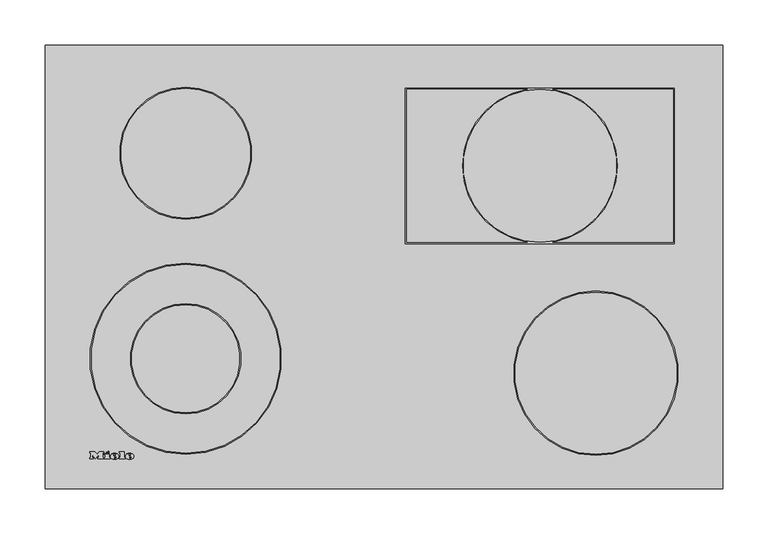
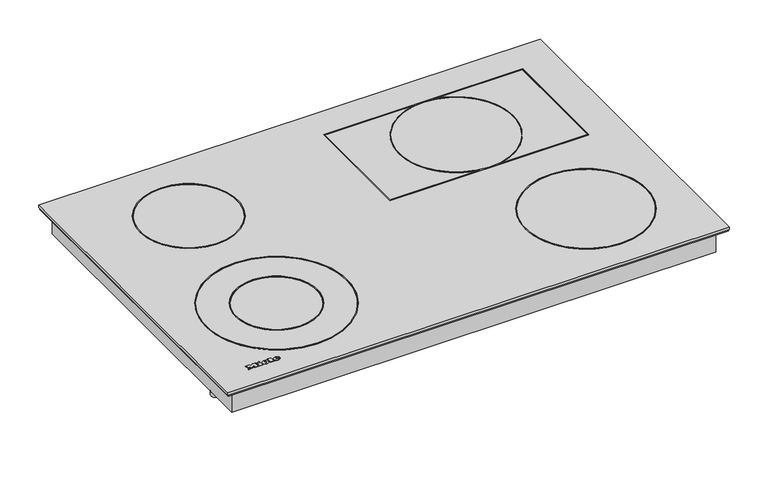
"""IFC4 building model written with IfcOpenShell, lengths in millimetres: proxy geometry, 10941480_RU_KM6542FL : 26654270_RU_10941480_KM6542FL."""

import ifcopenshell
import ifcopenshell.guid

model = None  # the IFC model being written
_history = None  # IfcOwnerHistory: only IFC2X3 demands one
_inside = {}  # id of a spatial element -> (the spatial element, [elements in it])
_under = {}  # id of a project, library or spatial element -> (it, [spatial elements below it])
_declared = {}  # id of a project -> (the project, [libraries it declares])
_typed = {}  # id of a type object -> (the type object, [elements of that type])
_made_of = {}  # id of a material, layer set ... -> (it, [elements and type objects made of it])


def new_model(schema):
    """Start an empty IFC model of exactly this schema.

    Asked for "IFC4X3", IfcOpenShell would pick the latest addendum, in which some entities
    have other attributes; the version numbers below select the first issue.
    IFC2X3 requires an IfcOwnerHistory on every rooted entity: one is made here for all.
    """
    global model, _history
    if schema == "IFC4X3":
        model = ifcopenshell.file(schema_version=(4, 3, 0, 0))
    else:
        model = ifcopenshell.file(schema=schema)
    _inside.clear()
    _under.clear()
    _declared.clear()
    _typed.clear()
    _made_of.clear()
    _history = None
    if model.schema == "IFC2X3":
        org = make("IfcOrganization", Name="unknown")
        user = make(
            "IfcPersonAndOrganization",
            ThePerson=make("IfcPerson", FamilyName="unknown"),
            TheOrganization=org,
        )
        app = make(
            "IfcApplication",
            ApplicationDeveloper=org,
            Version="unknown",
            ApplicationFullName="unknown",
            ApplicationIdentifier="unknown",
        )
        _history = make(
            "IfcOwnerHistory",
            OwningUser=user,
            OwningApplication=app,
            ChangeAction="ADDED",
            CreationDate=0,
        )
    return model


def make(cls, **values):
    """One entity of the class cls with the attributes given. An attribute that is None is left unset."""
    return model.create_entity(
        cls, **{name: value for name, value in values.items() if value is not None}
    )


def rooted(cls, **values):
    """An entity with a GlobalId (a new one), such as an element, a storey or a relation."""
    return make(cls, GlobalId=ifcopenshell.guid.new(), OwnerHistory=_history, **values)


def si_unit(unit_type, name, prefix=None):
    """IfcSIUnit, for example si_unit("LENGTHUNIT", "METRE", prefix="MILLI")."""
    return make("IfcSIUnit", UnitType=unit_type, Prefix=prefix, Name=name)


def assignment(units):
    """IfcUnitAssignment: the units of a project."""
    return None if units is None else make("IfcUnitAssignment", Units=units)


def point(xyz):
    """IfcCartesianPoint."""
    return None if xyz is None else make("IfcCartesianPoint", Coordinates=xyz)


def direction(xyz):
    """IfcDirection."""
    return None if xyz is None else make("IfcDirection", DirectionRatios=xyz)


def frame(location, z_axis=None, x_axis=None):
    """IfcAxis2Placement3D, a coordinate frame: its origin and axes. An axis left out is left unset."""
    return make(
        "IfcAxis2Placement3D",
        Location=point(location),
        Axis=direction(z_axis),
        RefDirection=direction(x_axis),
    )


def frame_2d(location, x_axis=None):
    """IfcAxis2Placement2D, a coordinate frame in the plane: its origin and x axis."""
    return make(
        "IfcAxis2Placement2D", Location=point(location), RefDirection=direction(x_axis)
    )


def origin():
    """The frame at (0, 0, 0) with its axes left unset."""
    return frame((0.0, 0.0, 0.0))


def origin_with_axes():
    """The frame at (0, 0, 0) with the z axis (0, 0, 1) and the x axis (1, 0, 0) written out."""
    return frame((0.0, 0.0, 0.0), z_axis=(0.0, 0.0, 1.0), x_axis=(1.0, 0.0, 0.0))


def place(relative_to, where):
    """IfcLocalPlacement: puts the frame where relative to a parent placement (None: the world)."""
    return make(
        "IfcLocalPlacement", PlacementRelTo=relative_to, RelativePlacement=where
    )


def context(
    kind, dimensions, precision=None, world=None, true_north=None, identifier=None
):
    """IfcGeometricRepresentationContext, for example the 3D "Model" context."""
    return make(
        "IfcGeometricRepresentationContext",
        ContextIdentifier=identifier,
        ContextType=kind,
        CoordinateSpaceDimension=dimensions,
        Precision=precision,
        WorldCoordinateSystem=world,
        TrueNorth=true_north,
    )


def project(units=None, contexts=None):
    """IfcProject with its units and contexts."""
    return rooted(
        "IfcProject",
        Name="project",
        RepresentationContexts=contexts,
        UnitsInContext=assignment(units),
    )


def spatial(cls, under=None, at=None, **own):
    """A site, building, storey or space (cls), placed at a placement, below another one or the project."""
    s = rooted(cls, ObjectPlacement=at, **own)
    if under is not None:
        _under.setdefault(under.id(), (under, []))[1].append(s)
    return s


def polyline(points):
    """IfcPolyline through the points."""
    return make("IfcPolyline", Points=[point(p) for p in points])


def circle_curve(where, radius):
    """IfcCircle in the frame where."""
    return make("IfcCircle", Position=where, Radius=radius)


def ellipse_curve(where, semi_axis1, semi_axis2):
    """IfcEllipse in the frame where."""
    return make(
        "IfcEllipse", Position=where, SemiAxis1=semi_axis1, SemiAxis2=semi_axis2
    )


def trimmed(basis, trim1, trim2, sense, master):
    """IfcTrimmedCurve: the piece of a basis curve between two trims."""
    return make(
        "IfcTrimmedCurve",
        BasisCurve=basis,
        Trim1=trim1,
        Trim2=trim2,
        SenseAgreement=sense,
        MasterRepresentation=master,
    )


def segment(curve, same_sense, transition):
    """IfcCompositeCurveSegment."""
    return make(
        "IfcCompositeCurveSegment",
        Transition=transition,
        SameSense=same_sense,
        ParentCurve=curve,
    )


def composite_curve(segments, self_intersect=None):
    """IfcCompositeCurve: segments joined end to end."""
    return make("IfcCompositeCurve", Segments=segments, SelfIntersect=self_intersect)


def outline(outer, holes=None, kind="AREA"):
    """IfcArbitraryClosedProfileDef: a profile drawn as a closed curve; with holes, ...WithVoids."""
    if holes is None:
        return make("IfcArbitraryClosedProfileDef", ProfileType=kind, OuterCurve=outer)
    return make(
        "IfcArbitraryProfileDefWithVoids",
        ProfileType=kind,
        OuterCurve=outer,
        InnerCurves=holes,
    )


def extrude(swept, where, along, depth):
    """IfcExtrudedAreaSolid: the profile swept, set in the frame where, extruded along a direction by depth."""
    return make(
        "IfcExtrudedAreaSolid",
        SweptArea=swept,
        Position=where,
        ExtrudedDirection=direction(along),
        Depth=depth,
    )


def shape(context_of_items, identifier, shape_type, items):
    """IfcShapeRepresentation: the items that make up one representation, for example the "Body"."""
    return make(
        "IfcShapeRepresentation",
        ContextOfItems=context_of_items,
        RepresentationIdentifier=identifier,
        RepresentationType=shape_type,
        Items=items,
    )


def source(mapping_origin, context_of_items, identifier, shape_type, items):
    """IfcRepresentationMap: a shape defined once, which mapped items show again and again."""
    return make(
        "IfcRepresentationMap",
        MappingOrigin=mapping_origin,
        MappedRepresentation=shape(context_of_items, identifier, shape_type, items),
    )


def transform(
    local_origin,
    x_axis=None,
    y_axis=None,
    z_axis=None,
    scale=None,
    scale2=None,
    scale3=None,
    uniform=True,
):
    """IfcCartesianTransformationOperator3D, or its non-uniform kind. x_axis, y_axis, z_axis: its Axis1, 2, 3."""
    if uniform:
        return make(
            "IfcCartesianTransformationOperator3D",
            Axis1=direction(x_axis),
            Axis2=direction(y_axis),
            LocalOrigin=point(local_origin),
            Scale=scale,
            Axis3=direction(z_axis),
        )
    return make(
        "IfcCartesianTransformationOperator3DnonUniform",
        Axis1=direction(x_axis),
        Axis2=direction(y_axis),
        LocalOrigin=point(local_origin),
        Scale=scale,
        Axis3=direction(z_axis),
        Scale2=scale2,
        Scale3=scale3,
    )


def mapped(mapping_source, mapping_target):
    """IfcMappedItem: shows the shape of a source again, moved by a transform."""
    return make(
        "IfcMappedItem", MappingSource=mapping_source, MappingTarget=mapping_target
    )


def made_of(thing, what):
    """Note that an element or type object is made of a material, layer set ...; save() writes the relation."""
    if what is not None:
        _made_of.setdefault(what.id(), (what, []))[1].append(thing)
    return thing


def element(
    cls,
    number,
    at=None,
    inside=None,
    cuts=None,
    type_object=None,
    material=None,
    context=None,
    identifier="Body",
    shape_type=None,
    held_by="IfcProductDefinitionShape",
    body=None,
    shapes=None,
    **own,
):
    """One element of the class cls, such as IfcWall. Its Tag is "e" and its number.

    at: its placement. inside: the storey or other place that contains it. cuts: it is an
    opening in that element (IfcRelVoidsElement). A single representation is given by context,
    identifier, shape_type and body (its items); several are given by shapes. held_by: the class
    of the entity that holds the representations. save() writes the other relations.
    """
    e = rooted(cls, Tag="e%d" % number, ObjectPlacement=at, **own)
    if body is not None:
        shapes = [shape(context, identifier, shape_type, body)]
    if shapes is not None:
        e.Representation = make(held_by, Representations=shapes)
    if inside is not None:
        _inside.setdefault(inside.id(), (inside, []))[1].append(e)
    if cuts is not None:
        rooted(
            "IfcRelVoidsElement", RelatingBuildingElement=cuts, RelatedOpeningElement=e
        )
    if type_object is not None:
        _typed.setdefault(type_object.id(), (type_object, []))[1].append(e)
    return made_of(e, material)


def aggregate(whole, parts):
    """IfcRelAggregates: a whole, such as a stair, and the parts it consists of."""
    return rooted("IfcRelAggregates", RelatingObject=whole, RelatedObjects=parts)


def save(model, path):
    """Write the relations noted so far, then the file.

    IfcRelAggregates (storeys below a building ...), IfcRelContainedInSpatialStructure (elements
    in a storey), IfcRelDefinesByType, IfcRelAssociatesMaterial and IfcRelDeclares: one each for
    every whole, place, type object, material and project.
    """
    for whole, parts in _under.values():
        aggregate(whole, parts)
    for where, things in _inside.values():
        rooted(
            "IfcRelContainedInSpatialStructure",
            RelatedElements=things,
            RelatingStructure=where,
        )
    for kind, things in _typed.values():
        rooted("IfcRelDefinesByType", RelatedObjects=things, RelatingType=kind)
    for what, things in _made_of.values():
        rooted("IfcRelAssociatesMaterial", RelatedObjects=things, RelatingMaterial=what)
    for by, libraries in _declared.values():
        rooted("IfcRelDeclares", RelatingContext=by, RelatedDefinitions=libraries)
    model.write(path)


def plane_surface(at):
    """IfcPlane: the flat surface through the origin of the frame at, square to its z axis."""
    return make("IfcPlane", Position=at)


def cylinder_surface(at, radius):
    """IfcCylindricalSurface: all points at the distance radius from the z axis of the frame at."""
    return make("IfcCylindricalSurface", Position=at, Radius=radius)


def revolved_surface(curve, axis_point, axis_direction):
    """IfcSurfaceOfRevolution: the curve turned about the line through axis_point along axis_direction."""
    return make(
        "IfcSurfaceOfRevolution",
        SweptCurve=make("IfcArbitraryOpenProfileDef", ProfileType="CURVE", Curve=curve),
        AxisPosition=make("IfcAxis1Placement", Location=point(axis_point), Axis=direction(axis_direction)),
    )


def extruded_surface(curve, direction_of_extrusion, depth):
    """IfcSurfaceOfLinearExtrusion: the curve pushed along a direction by depth."""
    return make(
        "IfcSurfaceOfLinearExtrusion",
        SweptCurve=make("IfcArbitraryOpenProfileDef", ProfileType="CURVE", Curve=curve),
        ExtrudedDirection=direction(direction_of_extrusion),
        Depth=depth,
    )


def advanced_brep(points, edges, surfaces, faces):
    """IfcAdvancedBrep: a solid bounded by faces that lie on surfaces and meet in shared edges.

    An edge is (start, end): straight between two places in points (the first is 0);
    or (start, end, curve); or (start, end, curve, False) where it runs against its curve.
    A face is (place in surfaces, loops), or (place, loops, False) where it looks against
    its surface's normal. A loop lists edges by number (the first is 1), with a minus sign
    where the edge is run from its end to its start. The first loop is the outer one.
    """
    corners = [point(p) for p in points]
    vertices = [make("IfcVertexPoint", VertexGeometry=c) for c in corners]
    made = []
    for start, end, *more in edges:
        made.append(
            make(
                "IfcEdgeCurve",
                EdgeStart=vertices[start],
                EdgeEnd=vertices[end],
                EdgeGeometry=more[0] if more else make("IfcPolyline", Points=[corners[start], corners[end]]),
                SameSense=more[1] if len(more) > 1 else True,
            )
        )
    hull = []
    for where, loops, *sense in faces:
        bounds = []
        for j, loop in enumerate(loops):
            ring = [make("IfcOrientedEdge", EdgeElement=made[abs(k) - 1], Orientation=k > 0) for k in loop]
            bounds.append(
                make(
                    "IfcFaceOuterBound" if j == 0 else "IfcFaceBound",
                    Bound=make("IfcEdgeLoop", EdgeList=ring),
                    Orientation=True,
                )
            )
        hull.append(make("IfcAdvancedFace", Bounds=bounds, FaceSurface=surfaces[where], SameSense=sense[0] if sense else True))
    return make("IfcAdvancedBrep", Outer=make("IfcClosedShell", CfsFaces=hull))


def specialty_equipment_642be2a8(model_context):
    return source(origin(), model_context, "Body", "SolidModel", [
        advanced_brep(
        [(-282.84, 34.6948833, 0.4802537), (-282.84, 35.5028828, 0.4811551), (-277.488, 35.5028828, 0.4811551), (-286.8, 35.5028828, 0.4811551), (-284.6, 32.7988845, 0.4781386), (-277.624, 34.6948833, 0.4802537), (-280.04, 34.6948833, 0.4802537), (-281.944, 33.7988838, 0.4792542), (-282.84, 36.5268821, 0.4822974), (-282.84, 37.3988816, 0.4832701), (-281.472, 37.3988816, 0.4832701), (-281.472, 36.5268821, 0.4822974), (-282.84, 34.6959988, -0.5197457), (-281.944, 33.7999994, -0.5207452), (-280.04, 34.6959988, -0.5197457), (-277.624, 34.6959988, -0.5197457), (-284.6, 32.8, -0.5218607), (-286.8, 35.5039983, -0.5188443), (-277.488, 35.5039983, -0.5188443), (-282.84, 35.5039983, -0.5188443), (-282.84, 36.5279977, -0.517702), (-281.472, 36.5279977, -0.517702), (-281.472, 37.3999971, -0.5167293), (-282.84, 37.3999971, -0.5167293)],
        [
            (0, 1),
            (1, 2),
            (2, 3, ellipse_curve(frame((-282.144, 35.5028828, 0.4811551), z_axis=(0.0, -0.0011155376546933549, 0.9999993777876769), x_axis=(-1.0, 0.0, 0.0)), 4.656, 3.848)),
            (3, 4, circle_curve(frame((-283.7039564, 35.7748826, 0.4814585), z_axis=(0.0, -0.0011155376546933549, 0.9999993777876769), x_axis=(0.0, -0.9999993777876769, -0.0011155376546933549)), 3.1079688)),
            (4, 5, circle_curve(frame((-282.2372064, 37.8868813, 0.4838145), z_axis=(0.0, -0.0011155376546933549, 0.9999993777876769), x_axis=(0.0, -0.9999993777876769, -0.0011155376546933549)), 5.6098607)),
            (5, 6),
            (6, 7, circle_curve(frame((-281.5529412, 35.4388828, 0.4810837), z_axis=(0.0, 0.0011155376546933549, -0.9999993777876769), x_axis=(0.0, -0.9999993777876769, -0.0011155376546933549)), 1.6859795)),
            (7, 0, circle_curve(frame((-281.944, 34.6948833, 0.4802537), z_axis=(0.0, 0.0011155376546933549, -0.9999993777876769), x_axis=(0.0, -0.9999993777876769, -0.0011155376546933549)), 0.896)),
            (8, 9),
            (9, 10, circle_curve(frame((-282.156, 37.3988816, 0.4832701), z_axis=(0.0, 0.0011155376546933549, -0.9999993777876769), x_axis=(0.0, -0.9999993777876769, -0.0011155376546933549)), 0.684)),
            (10, 11),
            (11, 8),
            (12, 13, circle_curve(frame((-281.944, 34.6959988, -0.5197457), z_axis=(0.0, -0.0011155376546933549, 0.9999993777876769), x_axis=(0.0, -0.9999993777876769, -0.0011155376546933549)), 0.896)),
            (13, 14, circle_curve(frame((-281.5529412, 35.4399984, -0.5189157), z_axis=(0.0, -0.0011155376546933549, 0.9999993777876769), x_axis=(0.0, -0.9999993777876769, -0.0011155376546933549)), 1.6859795)),
            (14, 15),
            (15, 16, circle_curve(frame((-282.2372064, 37.8879968, -0.5161849), z_axis=(0.0, 0.0011155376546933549, -0.9999993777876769), x_axis=(0.0, -0.9999993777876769, -0.0011155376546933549)), 5.6098607)),
            (16, 17, circle_curve(frame((-283.7039564, 35.7759981, -0.5185409), z_axis=(0.0, 0.0011155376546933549, -0.9999993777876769), x_axis=(0.0, -0.9999993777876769, -0.0011155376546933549)), 3.1079688)),
            (17, 18, ellipse_curve(frame((-282.144, 35.5039983, -0.5188443), z_axis=(0.0, 0.0011155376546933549, -0.9999993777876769), x_axis=(-1.0, 0.0, 0.0)), 4.656, 3.848)),
            (18, 19),
            (19, 12),
            (20, 21),
            (21, 22),
            (22, 23, circle_curve(frame((-282.156, 37.3999971, -0.5167293), z_axis=(0.0, -0.0011155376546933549, 0.9999993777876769), x_axis=(0.0, -0.9999993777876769, -0.0011155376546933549)), 0.684)),
            (23, 20),
            (0, 12),
            (19, 1),
            (18, 2),
            (5, 15),
            (14, 6),
            (17, 3),
            (13, 7),
            (16, 4),
            (8, 20),
            (23, 9),
            (22, 10),
            (21, 11),
        ],
        [
            plane_surface(frame((-282.84, 35.5028828, 0.4811551), z_axis=(0.0, -0.0011155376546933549, 0.9999993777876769), x_axis=(0.0, 0.9999993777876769, 0.0011155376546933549))),
            plane_surface(frame((-282.84, 35.5039983, -0.5188443), z_axis=(0.0, 0.0011155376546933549, -0.9999993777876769), x_axis=(0.0, -0.9999993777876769, -0.0011155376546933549))),
            plane_surface(frame((-282.84, 34.6948833, 0.4802537), z_axis=(1.0000000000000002, 0.0, 0.0), x_axis=(0.0, 0.001115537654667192, -0.999999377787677))),
            plane_surface(frame((-282.84, 35.5028828, 0.4811551), z_axis=(0.0, -0.999999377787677, -0.001115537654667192), x_axis=(0.0, 0.001115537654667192, -0.999999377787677))),
            plane_surface(frame((-277.624, 34.6948833, 0.4802537), z_axis=(0.0, 0.999999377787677, 0.001115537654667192), x_axis=(0.0, 0.001115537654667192, -0.999999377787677))),
            extruded_surface(trimmed(ellipse_curve(frame((-282.144, 35.5051139, -1.5188437), z_axis=(0.0, -0.0011155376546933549, 0.9999993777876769), x_axis=(-1.0, 0.0, 0.0)), 4.656, 3.848), [point((-277.488, 35.5051139, -1.5188437))], [point((-286.8, 35.5051139, -1.5188437))], True, "CARTESIAN"), (0.0, -0.001115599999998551, 0.9999993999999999), 1.0000000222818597),
            revolved_surface(polyline([(-281.5529412, 33.75401994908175, -0.5207965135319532), (-281.5529412, 33.75290441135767, 0.47920292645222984)]), (-281.5529412, 35.4399984, -0.5189157), (0.0, 0.0011155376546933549, -0.9999993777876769)),
            revolved_surface(polyline([(-281.944, 33.79999935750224, -0.5207452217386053), (-281.944, 33.79888381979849, 0.47925420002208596)]), (-281.944, 34.6959988, -0.5197457), (0.0, 0.0011155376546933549, -0.9999993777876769)),
            cylinder_surface(frame((-283.7039564, 35.7759981, -0.5185409), z_axis=(0.0, -0.0011155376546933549, 0.9999993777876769), x_axis=(0.0, -0.9999993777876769, -0.0011155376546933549)), 3.1079688),
            cylinder_surface(frame((-282.2372064, 37.8879968, -0.5161849), z_axis=(0.0, -0.0011155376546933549, 0.9999993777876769), x_axis=(0.0, -0.9999993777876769, -0.0011155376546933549)), 5.6098607),
            plane_surface(frame((-282.84, 36.5268821, 0.4822974), z_axis=(1.0000000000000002, 0.0, 0.0), x_axis=(0.0, 0.001115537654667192, -0.999999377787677))),
            revolved_surface(polyline([(-282.156, 36.71599752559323, -0.5174923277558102), (-282.156, 36.714881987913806, 0.48250707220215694)]), (-282.156, 37.3999971, -0.5167293), (0.0, 0.0011155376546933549, -0.9999993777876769)),
            plane_surface(frame((-281.472, 37.3988816, 0.4832701), z_axis=(-1.0000000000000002, 0.0, 0.0), x_axis=(0.0, 0.001115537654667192, -0.999999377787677))),
            plane_surface(frame((-281.472, 36.5268821, 0.4822974), z_axis=(0.0, 0.999999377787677, 0.001115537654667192), x_axis=(0.0, 0.001115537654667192, -0.999999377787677))),
        ],
        [
            (0, [[1, 2, 3, 4, 5, 6, 7, 8], [9, 10, 11, 12]]),
            (1, [[13, 14, 15, 16, 17, 18, 19, 20], [21, 22, 23, 24]]),
            (2, [[-1, 25, -20, 26]]),
            (3, [[-2, -26, -19, 27]]),
            (4, [[-6, 28, -15, 29]]),
            (5, [[-3, -27, -18, 30]]),
            (6, [[-7, -29, -14, 31]]),
            (7, [[-8, -31, -13, -25]]),
            (8, [[-4, -30, -17, 32]]),
            (9, [[-5, -32, -16, -28]]),
            (10, [[-9, 33, -24, 34]]),
            (11, [[-10, -34, -23, 35]]),
            (12, [[-11, -35, -22, 36]]),
            (13, [[-12, -36, -21, -33]]),
        ],
    ),
        advanced_brep(
        [(-299.536, 34.6948833, 0.4802537), (-299.536, 35.5028828, 0.4811551), (-294.184, 35.5028828, 0.4811551), (-303.496, 35.5028828, 0.4811551), (-301.296, 32.7988845, 0.4781386), (-294.32, 34.6948833, 0.4802537), (-296.736, 34.6948833, 0.4802537), (-298.64, 33.7988838, 0.4792542), (-299.536, 36.5268821, 0.4822974), (-299.536, 37.3988816, 0.4832701), (-298.168, 37.3988816, 0.4832701), (-298.168, 36.5268821, 0.4822974), (-299.536, 34.6959988, -0.5197457), (-298.64, 33.7999994, -0.5207452), (-296.736, 34.6959988, -0.5197457), (-294.32, 34.6959988, -0.5197457), (-301.296, 32.8, -0.5218607), (-303.496, 35.5039983, -0.5188443), (-294.184, 35.5039983, -0.5188443), (-299.536, 35.5039983, -0.5188443), (-299.536, 36.5279977, -0.517702), (-298.168, 36.5279977, -0.517702), (-298.168, 37.3999971, -0.5167293), (-299.536, 37.3999971, -0.5167293)],
        [
            (0, 1),
            (1, 2),
            (2, 3, ellipse_curve(frame((-298.84, 35.5028828, 0.4811551), z_axis=(0.0, -0.0011155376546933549, 0.9999993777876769), x_axis=(-1.0, 0.0, 0.0)), 4.656, 3.848)),
            (3, 4, circle_curve(frame((-300.3999564, 35.7748826, 0.4814585), z_axis=(0.0, -0.0011155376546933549, 0.9999993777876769), x_axis=(0.0, -0.9999993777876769, -0.0011155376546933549)), 3.1079688)),
            (4, 5, circle_curve(frame((-298.9332064, 37.8868813, 0.4838145), z_axis=(0.0, -0.0011155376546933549, 0.9999993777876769), x_axis=(0.0, -0.9999993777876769, -0.0011155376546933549)), 5.6098607)),
            (5, 6),
            (6, 7, circle_curve(frame((-298.2489412, 35.4388828, 0.4810837), z_axis=(0.0, 0.0011155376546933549, -0.9999993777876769), x_axis=(0.0, -0.9999993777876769, -0.0011155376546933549)), 1.6859795)),
            (7, 0, circle_curve(frame((-298.64, 34.6948833, 0.4802537), z_axis=(0.0, 0.0011155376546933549, -0.9999993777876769), x_axis=(0.0, -0.9999993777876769, -0.0011155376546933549)), 0.896)),
            (8, 9),
            (9, 10, circle_curve(frame((-298.852, 37.3988816, 0.4832701), z_axis=(0.0, 0.0011155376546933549, -0.9999993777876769), x_axis=(0.0, -0.9999993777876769, -0.0011155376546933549)), 0.684)),
            (10, 11),
            (11, 8),
            (12, 13, circle_curve(frame((-298.64, 34.6959988, -0.5197457), z_axis=(0.0, -0.0011155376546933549, 0.9999993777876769), x_axis=(0.0, -0.9999993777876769, -0.0011155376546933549)), 0.896)),
            (13, 14, circle_curve(frame((-298.2489412, 35.4399984, -0.5189157), z_axis=(0.0, -0.0011155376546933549, 0.9999993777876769), x_axis=(0.0, -0.9999993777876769, -0.0011155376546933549)), 1.6859795)),
            (14, 15),
            (15, 16, circle_curve(frame((-298.9332064, 37.8879968, -0.5161849), z_axis=(0.0, 0.0011155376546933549, -0.9999993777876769), x_axis=(0.0, -0.9999993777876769, -0.0011155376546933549)), 5.6098607)),
            (16, 17, circle_curve(frame((-300.3999564, 35.7759981, -0.5185409), z_axis=(0.0, 0.0011155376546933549, -0.9999993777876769), x_axis=(0.0, -0.9999993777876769, -0.0011155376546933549)), 3.1079688)),
            (17, 18, ellipse_curve(frame((-298.84, 35.5039983, -0.5188443), z_axis=(0.0, 0.0011155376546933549, -0.9999993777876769), x_axis=(-1.0, 0.0, 0.0)), 4.656, 3.848)),
            (18, 19),
            (19, 12),
            (20, 21),
            (21, 22),
            (22, 23, circle_curve(frame((-298.852, 37.3999971, -0.5167293), z_axis=(0.0, -0.0011155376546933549, 0.9999993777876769), x_axis=(0.0, -0.9999993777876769, -0.0011155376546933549)), 0.684)),
            (23, 20),
            (0, 12),
            (19, 1),
            (18, 2),
            (5, 15),
            (14, 6),
            (17, 3),
            (13, 7),
            (16, 4),
            (8, 20),
            (23, 9),
            (22, 10),
            (21, 11),
        ],
        [
            plane_surface(frame((-299.536, 35.5028828, 0.4811551), z_axis=(0.0, -0.0011155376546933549, 0.9999993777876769), x_axis=(0.0, 0.9999993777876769, 0.0011155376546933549))),
            plane_surface(frame((-299.536, 35.5039983, -0.5188443), z_axis=(0.0, 0.0011155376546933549, -0.9999993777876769), x_axis=(0.0, -0.9999993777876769, -0.0011155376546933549))),
            plane_surface(frame((-299.536, 34.6948833, 0.4802537), z_axis=(1.0000000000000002, 0.0, 0.0), x_axis=(0.0, 0.001115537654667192, -0.999999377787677))),
            plane_surface(frame((-299.536, 35.5028828, 0.4811551), z_axis=(0.0, -0.999999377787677, -0.001115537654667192), x_axis=(0.0, 0.001115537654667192, -0.999999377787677))),
            plane_surface(frame((-294.32, 34.6948833, 0.4802537), z_axis=(0.0, 0.999999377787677, 0.001115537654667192), x_axis=(0.0, 0.001115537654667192, -0.999999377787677))),
            extruded_surface(trimmed(ellipse_curve(frame((-298.84, 35.5051139, -1.5188437), z_axis=(0.0, -0.0011155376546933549, 0.9999993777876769), x_axis=(-1.0, 0.0, 0.0)), 4.656, 3.848), [point((-294.184, 35.5051139, -1.5188437))], [point((-303.496, 35.5051139, -1.5188437))], True, "CARTESIAN"), (0.0, -0.001115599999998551, 0.9999993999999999), 1.0000000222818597),
            revolved_surface(polyline([(-298.2489412, 33.75401994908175, -0.5207965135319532), (-298.2489412, 33.75290441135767, 0.47920292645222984)]), (-298.2489412, 35.4399984, -0.5189157), (0.0, 0.0011155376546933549, -0.9999993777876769)),
            revolved_surface(polyline([(-298.64, 33.79999935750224, -0.5207452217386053), (-298.64, 33.79888381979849, 0.47925420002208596)]), (-298.64, 34.6959988, -0.5197457), (0.0, 0.0011155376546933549, -0.9999993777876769)),
            cylinder_surface(frame((-300.3999564, 35.7759981, -0.5185409), z_axis=(0.0, -0.0011155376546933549, 0.9999993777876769), x_axis=(0.0, -0.9999993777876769, -0.0011155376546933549)), 3.1079688),
            cylinder_surface(frame((-298.9332064, 37.8879968, -0.5161849), z_axis=(0.0, -0.0011155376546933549, 0.9999993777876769), x_axis=(0.0, -0.9999993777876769, -0.0011155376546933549)), 5.6098607),
            plane_surface(frame((-299.536, 36.5268821, 0.4822974), z_axis=(1.0000000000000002, 0.0, 0.0), x_axis=(0.0, 0.001115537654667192, -0.999999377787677))),
            revolved_surface(polyline([(-298.852, 36.71599752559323, -0.5174923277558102), (-298.852, 36.714881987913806, 0.48250707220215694)]), (-298.852, 37.3999971, -0.5167293), (0.0, 0.0011155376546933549, -0.9999993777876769)),
            plane_surface(frame((-298.168, 37.3988816, 0.4832701), z_axis=(-1.0000000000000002, 0.0, 0.0), x_axis=(0.0, 0.001115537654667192, -0.999999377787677))),
            plane_surface(frame((-298.168, 36.5268821, 0.4822974), z_axis=(0.0, 0.999999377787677, 0.001115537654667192), x_axis=(0.0, 0.001115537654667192, -0.999999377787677))),
        ],
        [
            (0, [[1, 2, 3, 4, 5, 6, 7, 8], [9, 10, 11, 12]]),
            (1, [[13, 14, 15, 16, 17, 18, 19, 20], [21, 22, 23, 24]]),
            (2, [[-1, 25, -20, 26]]),
            (3, [[-2, -26, -19, 27]]),
            (4, [[-6, 28, -15, 29]]),
            (5, [[-3, -27, -18, 30]]),
            (6, [[-7, -29, -14, 31]]),
            (7, [[-8, -31, -13, -25]]),
            (8, [[-4, -30, -17, 32]]),
            (9, [[-5, -32, -16, -28]]),
            (10, [[-9, 33, -24, 34]]),
            (11, [[-10, -34, -23, 35]]),
            (12, [[-11, -35, -22, 36]]),
            (13, [[-12, -36, -21, -33]]),
        ],
    ),
        extrude(outline(polyline([(0.0, 0.0), (-0.0109086, -2.9993294), (-1.4390415, -2.9920868), (-1.4315307, 0.0), (0.0, 0.0)])), frame((-308.28, 40.3279953, -0.513463), z_axis=(0.0, -0.001115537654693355, 0.9999993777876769), x_axis=(-0.4247202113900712, 0.9053240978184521, 0.0010099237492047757)), (0.0, 0.0, 1.0), 1.0),
        extrude(outline(polyline([(-0.4933908, 2.4141097), (-2.7800844, -2.4601583), (-7.0459741, -0.4588767), (-7.4401145, -1.299018), (-8.6568709, -0.728194), (-5.9760369, 4.9862153), (-4.7592805, 4.4153913), (-5.1636142, 3.5535222), (-2.1941493, 2.1604399), (-1.7898157, 3.022309), (-0.4933908, 2.4141097)])), frame((-308.28, 40.3279953, -0.513463), z_axis=(0.0, -0.001115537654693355, 0.9999993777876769), x_axis=(-0.4247202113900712, 0.9053240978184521, 0.0010099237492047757)), (0.0, 0.0, 1.0), 1.0),
        extrude(outline(polyline([(0.0, 0.0), (0.0, -1.304), (-5.504, -1.304), (-5.504, 5.3519999), (-6.488, 5.3519999), (-6.488, 6.696), (0.0, 6.696), (0.0, 5.3519999), (-0.96, 5.3519999), (-0.96, 0.0), (0.0, 0.0)])), frame((-293.736, 39.4959958, -0.5143911), z_axis=(0.0, -0.0011155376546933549, 0.9999993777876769), x_axis=(-1.0, 0.0, 0.0)), (0.0, 0.0, 1.0), 1.0),
        extrude(outline(polyline([(0.0, 0.0), (0.0, -1.304), (-5.576, -1.304), (-7.92, 1.696), (-10.256, -1.304), (-15.128, -1.304), (-15.128, 0.0), (-14.112, 0.0), (-14.112, 5.3519999), (-15.128, 5.3519999), (-15.128, 6.696), (-8.744, 6.696), (-8.744, 5.3519999), (-9.728, 5.3519999), (-9.728, 1.8807777), (-6.136, 6.696), (-2.56, 1.9488752), (-2.56, 5.3519999), (-3.52, 5.3519999), (-3.52, 6.696), (0.0, 6.696), (0.0, 5.3519999), (-0.968, 5.3519999), (-0.968, 0.0), (0.0, 0.0)])), frame((-326.2, 39.4959958, -0.5143911), z_axis=(0.0, -0.0011155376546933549, 0.9999993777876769), x_axis=(-1.0, 0.0, 0.0)), (0.0, 0.0, 1.0), 1.0),
        extrude(outline(polyline([(375.0, 491.0), (375.0, 1.0), (-375.0, 1.0), (-375.0, 491.0), (375.0, 491.0)])), frame((0.0, 0.0, -6.6), z_axis=(0.0, 0.0, 1.0), x_axis=(1.0, 0.0, 0.0)), (0.0, 0.0, 1.0), 2.6),
        extrude(outline(polyline([(-35.3, 461.5), (-35.3, 365.5), (-90.3, 365.5), (-90.3, 461.5), (-35.3, 461.5)])), frame((0.0, 0.0, -45.3), z_axis=(0.0, 0.0, 1.0), x_axis=(1.0, 0.0, 0.0)), (0.0, 0.0, 1.0), 2.5),
        extrude(outline(polyline([(363.0, 479.0), (363.0, 13.0), (-363.0, 13.0), (-363.0, 479.0), (363.0, 479.0)])), frame((0.0, 0.0, -42.8), z_axis=(0.0, 0.0, 1.0), x_axis=(1.0, 0.0, 0.0)), (0.0, 0.0, 1.0), 36.2),
        extrude(outline(polyline([(376.0, 492.0), (376.0, 0.0), (-376.0, 0.0), (-376.0, 492.0), (376.0, 492.0)])), frame((0.0, 0.0, -4.0), z_axis=(0.0, 0.0, 1.0), x_axis=(1.0, 0.0, 0.0)), (0.0, 0.0, 1.0), 4.0),
        extrude(outline(composite_curve([segment(trimmed(circle_curve(frame_2d((-355.5, 66.0)), 8.0), [point((-355.5, 74.0))], [point((-355.5, 58.0))], False, "CARTESIAN"), True, "CONTINUOUS"), segment(trimmed(circle_curve(frame_2d((-355.5, 66.0)), 8.0), [point((-355.5, 58.0))], [point((-355.5, 74.0))], False, "CARTESIAN"), True, "CONTINUOUS")], self_intersect=False)), frame((0.0, 0.0, -48.8), z_axis=(0.0, 0.0, 1.0), x_axis=(1.0, 0.0, 0.0)), (0.0, 0.0, 1.0), 6.0),
        extrude(outline(composite_curve([segment(trimmed(circle_curve(frame_2d((355.5, 426.0)), 8.0), [point((355.5, 434.0))], [point((355.5, 418.0))], False, "CARTESIAN"), True, "CONTINUOUS"), segment(trimmed(circle_curve(frame_2d((355.5, 426.0)), 8.0), [point((355.5, 418.0))], [point((355.5, 434.0))], False, "CARTESIAN"), True, "CONTINUOUS")], self_intersect=False)), frame((0.0, 0.0, -48.8), z_axis=(0.0, 0.0, 1.0), x_axis=(1.0, 0.0, 0.0)), (0.0, 0.0, 1.0), 6.0),
        extrude(outline(composite_curve([segment(trimmed(circle_curve(frame_2d((-60.4, 454.0)), 7.5), [point((-60.4, 461.5))], [point((-60.4, 446.5))], False, "CARTESIAN"), True, "CONTINUOUS"), segment(trimmed(circle_curve(frame_2d((-60.4, 454.0)), 7.5), [point((-60.4, 446.5))], [point((-60.4, 461.5))], False, "CARTESIAN"), True, "CONTINUOUS")], self_intersect=False)), frame((0.0, 0.0, -75.3), z_axis=(0.0, 0.0, 1.0), x_axis=(1.0, 0.0, 0.0)), (0.0, 0.0, 1.0), 30.0),
        extrude(outline(polyline([(-53.0227397, 449.0), (-60.4, 449.0), (-60.4, 450.2557039), (-54.2784436, 450.2557039), (-54.2784436, 453.5519266), (-59.929111, 453.5519266), (-59.929111, 454.8076304), (-54.2784436, 454.8076304), (-54.2784436, 457.7899271), (-60.243037, 457.7899271), (-60.243037, 459.045631), (-53.0227397, 459.045631), (-53.0227397, 449.0)])), frame((0.0, 0.0, -76.3), z_axis=(0.0, 0.0, 1.0), x_axis=(1.0, 0.0, 0.0)), (0.0, 0.0, 1.0), 1.0),
        extrude(outline(polyline([(-62.2835558, 449.0), (-68.5620752, 449.0), (-68.5620752, 450.2557039), (-63.5392597, 450.2557039), (-63.5392597, 459.045631), (-62.2835558, 459.045631), (-62.2835558, 449.0)])), frame((0.0, 0.0, -76.3), z_axis=(0.0, 0.0, 1.0), x_axis=(1.0, 0.0, 0.0)), (0.0, 0.0, 1.0), 1.0),
        extrude(outline(polyline([(322.2, 444.2), (322.2, 271.8), (23.8, 271.8), (23.8, 444.2), (322.2, 444.2)]), holes=[composite_curve([segment(trimmed(circle_curve(frame_2d((173.0, 358.0)), 85.0), [point((173.0, 443.0))], [point((173.0, 273.0))], True, "CARTESIAN"), True, "CONTINUOUS"), segment(trimmed(circle_curve(frame_2d((173.0, 358.0)), 85.0), [point((173.0, 273.0))], [point((173.0, 443.0))], True, "CARTESIAN"), True, "CONTINUOUS")], self_intersect=False), composite_curve([segment(trimmed(circle_curve(frame_2d((173.0, 358.0)), 86.2), [point((187.3331783, 443.0))], [point((187.3331783, 273.0))], False, "CARTESIAN"), True, "CONTINUOUS"), segment(polyline([(187.3331783, 273.0), (321.0, 273.0), (321.0, 443.0), (187.3331783, 443.0)]), True, "CONTINUOUS")], self_intersect=False), composite_curve([segment(trimmed(circle_curve(frame_2d((173.0, 358.0)), 86.2), [point((158.6668217, 273.0))], [point((158.6668217, 443.0))], False, "CARTESIAN"), True, "CONTINUOUS"), segment(polyline([(158.6668217, 443.0), (25.0, 443.0), (25.0, 273.0), (158.6668217, 273.0)]), True, "CONTINUOUS")], self_intersect=False)]), origin_with_axes(), (0.0, 0.0, 1.0), 1.0),
        extrude(outline(composite_curve([segment(trimmed(circle_curve(frame_2d((-220.0, 372.0)), 73.2), [point((-220.0, 445.2))], [point((-220.0, 298.8))], False, "CARTESIAN"), True, "CONTINUOUS"), segment(trimmed(circle_curve(frame_2d((-220.0, 372.0)), 73.2), [point((-220.0, 298.8))], [point((-220.0, 445.2))], False, "CARTESIAN"), True, "CONTINUOUS")], self_intersect=False), holes=[composite_curve([segment(trimmed(circle_curve(frame_2d((-220.0, 372.0)), 72.0), [point((-220.0, 444.0))], [point((-220.0, 300.0))], True, "CARTESIAN"), True, "CONTINUOUS"), segment(trimmed(circle_curve(frame_2d((-220.0, 372.0)), 72.0), [point((-220.0, 300.0))], [point((-220.0, 444.0))], True, "CARTESIAN"), True, "CONTINUOUS")], self_intersect=False)]), origin_with_axes(), (0.0, 0.0, 1.0), 1.0),
        extrude(outline(composite_curve([segment(trimmed(circle_curve(frame_2d((235.0, 128.0)), 91.2), [point((235.0, 219.2))], [point((235.0, 36.8))], False, "CARTESIAN"), True, "CONTINUOUS"), segment(trimmed(circle_curve(frame_2d((235.0, 128.0)), 91.2), [point((235.0, 36.8))], [point((235.0, 219.2))], False, "CARTESIAN"), True, "CONTINUOUS")], self_intersect=False), holes=[composite_curve([segment(trimmed(circle_curve(frame_2d((235.0, 128.0)), 90.0), [point((235.0, 218.0))], [point((235.0, 38.0))], True, "CARTESIAN"), True, "CONTINUOUS"), segment(trimmed(circle_curve(frame_2d((235.0, 128.0)), 90.0), [point((235.0, 38.0))], [point((235.0, 218.0))], True, "CARTESIAN"), True, "CONTINUOUS")], self_intersect=False)]), origin_with_axes(), (0.0, 0.0, 1.0), 1.0),
        extrude(outline(composite_curve([segment(trimmed(circle_curve(frame_2d((-220.0, 144.0)), 106.2), [point((-220.0, 250.2))], [point((-220.0, 37.8))], False, "CARTESIAN"), True, "CONTINUOUS"), segment(trimmed(circle_curve(frame_2d((-220.0, 144.0)), 106.2), [point((-220.0, 37.8))], [point((-220.0, 250.2))], False, "CARTESIAN"), True, "CONTINUOUS")], self_intersect=False), holes=[composite_curve([segment(trimmed(circle_curve(frame_2d((-220.0, 144.0)), 105.0), [point((-220.0, 249.0))], [point((-220.0, 39.0))], True, "CARTESIAN"), True, "CONTINUOUS"), segment(trimmed(circle_curve(frame_2d((-220.0, 144.0)), 105.0), [point((-220.0, 39.0))], [point((-220.0, 249.0))], True, "CARTESIAN"), True, "CONTINUOUS")], self_intersect=False)]), origin_with_axes(), (0.0, 0.0, 1.0), 1.0),
        extrude(outline(composite_curve([segment(trimmed(circle_curve(frame_2d((-220.0, 144.0)), 61.2), [point((-220.0, 205.2))], [point((-220.0, 82.8))], False, "CARTESIAN"), True, "CONTINUOUS"), segment(trimmed(circle_curve(frame_2d((-220.0, 144.0)), 61.2), [point((-220.0, 82.8))], [point((-220.0, 205.2))], False, "CARTESIAN"), True, "CONTINUOUS")], self_intersect=False), holes=[composite_curve([segment(trimmed(circle_curve(frame_2d((-220.0, 144.0)), 60.0), [point((-220.0, 204.0))], [point((-220.0, 84.0))], True, "CARTESIAN"), True, "CONTINUOUS"), segment(trimmed(circle_curve(frame_2d((-220.0, 144.0)), 60.0), [point((-220.0, 84.0))], [point((-220.0, 204.0))], True, "CARTESIAN"), True, "CONTINUOUS")], self_intersect=False)]), origin_with_axes(), (0.0, 0.0, 1.0), 1.0),
    ])


if __name__ == "__main__":
    model = new_model("IFC4")
    model_context = context("Model", 3, world=origin())
    ifc_project = project(units=[si_unit("LENGTHUNIT", "METRE", prefix="MILLI")], contexts=[model_context])
    site = spatial("IfcSite", under=ifc_project)
    building = spatial("IfcBuilding", under=site)
    placement = place(None, origin())
    specialty_equipment_shape = specialty_equipment_642be2a8(model_context)
    element("IfcBuildingElementProxy", 1, Name="10941480_RU_KM6542FL : 26654270_RU_10941480_KM6542FL", ObjectType="10941480_RU_KM6542FL : 26654270_RU_10941480_KM6542FL", at=placement, inside=building, context=model_context, shape_type="MappedRepresentation", body=[
        mapped(specialty_equipment_shape, transform((0.0, 0.0, 0.0), x_axis=(1.0, 0.0, 0.0), y_axis=(0.0, 1.0, 0.0), z_axis=(0.0, 0.0, 1.0))),
    ])
    save(model, "model.ifc")
